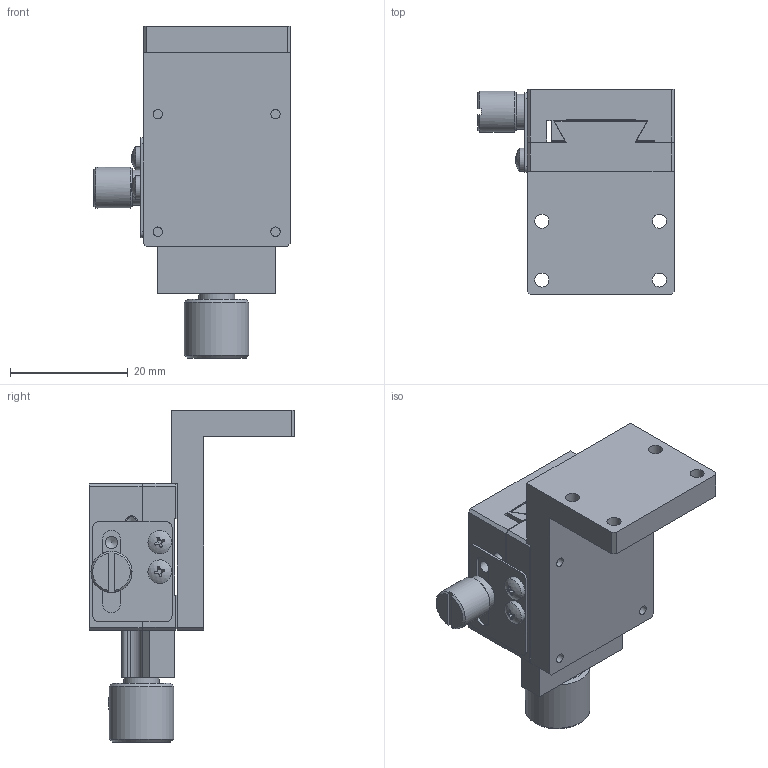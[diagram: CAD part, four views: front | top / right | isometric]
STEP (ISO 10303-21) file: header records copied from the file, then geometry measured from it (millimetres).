
FILE_DESCRIPTION (( 'STEP AP203' ), '1' );
FILE_NAME ('BFZ25.STEP', '2024-07-31T02:34:10', ( 'Windows User' ), ( 'P R C' ), 'SwSTEP 2.0', 'SolidWorks 2024', '' );
FILE_SCHEMA (( 'CONFIG_CONTROL_DESIGN' ));
Length unit declared in the file: millimetre
Products named in the file (1): BFZ25
Bounding box: 33.4 x 35 x 56.5 mm (x, y, z)
Volume: 16289.1 mm3; surface area: 13253.8 mm2
Topology: 15 solids, 15 shells, 659 faces, 1701 edges, 1105 vertices
Faces by surface type: plane 434, cylinder 96, bspline 69, cone 56, sphere 2, torus 2
Full cylindrical faces by diameter (mm): 1.6 x14, 2 x2, 2.05 x7, 2.1 x1, 2.4 x8, 2.5 x7, 2.9 x3, 3 x2, 4 x9, 4.1 x1, 4.2 x2, 4.4 x1, 4.5 x3, 4.7 x2, 6 x2, 6.094 x1, 6.9 x1, 7 x1, 7.5 x1, 11 x1
Entity records: 25694 total; most frequent: CARTESIAN_POINT 11007, ORIENTED_EDGE 3066, DIRECTION 2611, EDGE_CURVE 1533, VERTEX_POINT 1059, VECTOR 911, LINE 911, EDGE_LOOP 866
